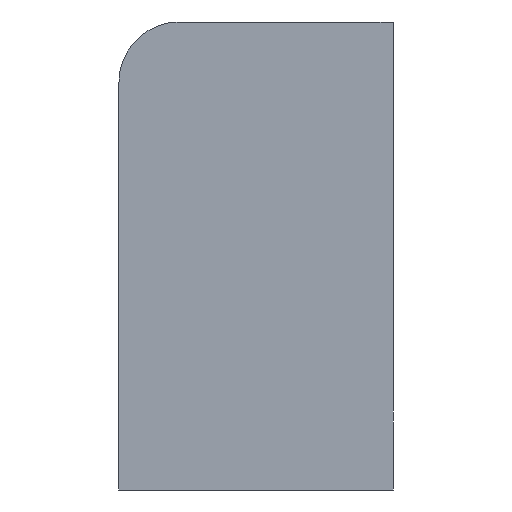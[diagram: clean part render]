
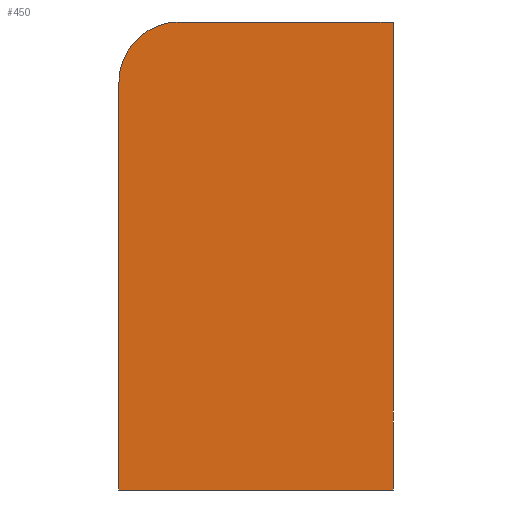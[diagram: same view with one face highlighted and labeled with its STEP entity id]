
A CAD part, left-side view. The second image highlights one B-rep face of the part: STEP entity #450.
In plain terms, the highlighted planar face has unit normal (-1, 0, 0).
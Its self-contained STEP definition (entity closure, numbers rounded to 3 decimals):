
#233=CARTESIAN_POINT('Vertex',(0.,0.,140.)) ;
#236=CARTESIAN_POINT('Line Origine',(0.,0.,70.)) ;
#240=CARTESIAN_POINT('Vertex',(0.,0.,0.)) ;
#329=CARTESIAN_POINT('Vertex',(0.,82.,0.)) ;
#332=CARTESIAN_POINT('Line Origine',(0.,82.,61.)) ;
#336=CARTESIAN_POINT('Vertex',(0.,82.,122.)) ;
#396=CARTESIAN_POINT('Line Origine',(0.,41.,0.)) ;
#414=CARTESIAN_POINT('Axis2P3D Location',(0.,64.,122.)) ;
#418=CARTESIAN_POINT('Vertex',(0.,64.,140.)) ;
#433=CARTESIAN_POINT('Axis2P3D Location',(0.,82.,0.)) ;
#438=CARTESIAN_POINT('Line Origine',(0.,32.,140.)) ;
#237=DIRECTION('Vector Direction',(0.,0.,1.)) ;
#333=DIRECTION('Vector Direction',(0.,0.,1.)) ;
#397=DIRECTION('Vector Direction',(0.,-1.,0.)) ;
#415=DIRECTION('Axis2P3D Direction',(-1.,0.,0.)) ;
#434=DIRECTION('Axis2P3D Direction',(-1.,0.,0.)) ;
#435=DIRECTION('Axis2P3D XDirection',(0.,-1.,0.)) ;
#439=DIRECTION('Vector Direction',(0.,1.,0.)) ;
#416=AXIS2_PLACEMENT_3D('Circle Axis2P3D',#414,#415,$) ;
#436=AXIS2_PLACEMENT_3D('Plane Axis2P3D',#433,#434,#435) ;
#444=ORIENTED_EDGE('',*,*,#242,.T.) ;
#445=ORIENTED_EDGE('',*,*,#442,.T.) ;
#446=ORIENTED_EDGE('',*,*,#420,.T.) ;
#447=ORIENTED_EDGE('',*,*,#338,.F.) ;
#448=ORIENTED_EDGE('',*,*,#400,.T.) ;
#238=VECTOR('Line Direction',#237,1.) ;
#334=VECTOR('Line Direction',#333,1.) ;
#398=VECTOR('Line Direction',#397,1.) ;
#440=VECTOR('Line Direction',#439,1.) ;
#450=ADVANCED_FACE('PartBody',(#449),#437,.T.) ;
#417=CIRCLE('generated circle',#416,18.) ;
#242=EDGE_CURVE('',#241,#234,#239,.T.) ;
#338=EDGE_CURVE('',#330,#337,#335,.T.) ;
#400=EDGE_CURVE('',#330,#241,#399,.T.) ;
#420=EDGE_CURVE('',#419,#337,#417,.T.) ;
#442=EDGE_CURVE('',#234,#419,#441,.T.) ;
#443=EDGE_LOOP('',(#444,#445,#446,#447,#448)) ;
#449=FACE_OUTER_BOUND('',#443,.T.) ;
#239=LINE('Line',#236,#238) ;
#335=LINE('Line',#332,#334) ;
#399=LINE('Line',#396,#398) ;
#441=LINE('Line',#438,#440) ;
#437=PLANE('',#436) ;
#234=VERTEX_POINT('',#233) ;
#241=VERTEX_POINT('',#240) ;
#330=VERTEX_POINT('',#329) ;
#337=VERTEX_POINT('',#336) ;
#419=VERTEX_POINT('',#418) ;
